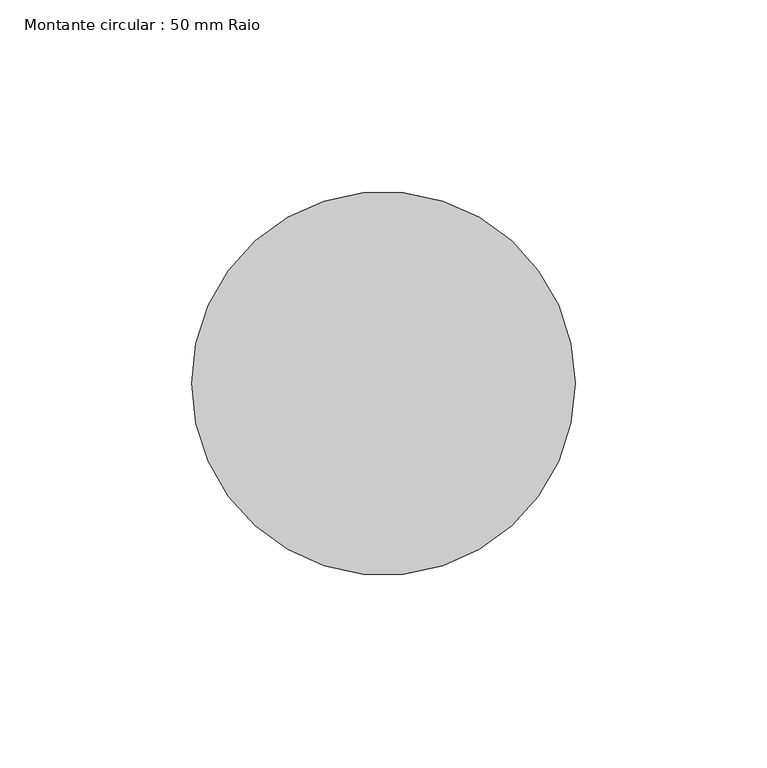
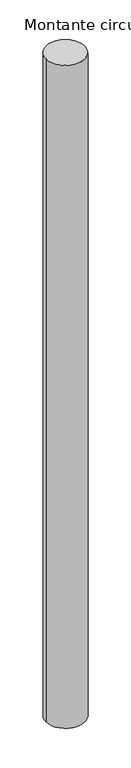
"""IFC4 building model written with IfcOpenShell, lengths in millimetres: member geometry, Montante circular : 50 mm Raio."""

from ifc_helpers import new_model, si_unit, point, frame, origin, origin_2d, place, context, project, spatial, circle_curve, trimmed, segment, composite_curve, outline, extrude, source, transform, mapped, element, save


def montante_circular_50_mm_raio_659bf2f8(model_context):
    return source(origin(), model_context, "Body", "SweptSolid", [
        extrude(outline(composite_curve([segment(trimmed(circle_curve(origin_2d(), 50.0), [point((50.0, 0.0))], [point((-50.0, 0.0))], False, "CARTESIAN"), True, "CONTINUOUS"), segment(trimmed(circle_curve(origin_2d(), 50.0), [point((-50.0, 0.0))], [point((50.0, 0.0))], False, "CARTESIAN"), True, "CONTINUOUS")], self_intersect=False)), frame((0.0, 0.0, -1800.0), z_axis=(0.0, 0.0, 1.0), x_axis=(1.0, 0.0, 0.0)), (0.0, 0.0, 1.0), 1800.0),
    ])


if __name__ == "__main__":
    model = new_model("IFC4")
    model_context = context("Model", 3, world=origin())
    ifc_project = project(units=[si_unit("LENGTHUNIT", "METRE", prefix="MILLI")], contexts=[model_context])
    site = spatial("IfcSite", under=ifc_project)
    building = spatial("IfcBuilding", under=site)
    placement = place(None, origin())
    montante_circular_50_mm_raio_shape = montante_circular_50_mm_raio_659bf2f8(model_context)
    element("IfcMember", 1, ObjectType="Montante circular : 50 mm Raio", at=placement, inside=building, context=model_context, shape_type="MappedRepresentation", body=[
        mapped(montante_circular_50_mm_raio_shape, transform((0.0, 0.0, 0.0), x_axis=(1.0, 0.0, 0.0), y_axis=(0.0, 1.0, 0.0), z_axis=(0.0, 0.0, 1.0))),
    ])
    save(model, "model.ifc")
